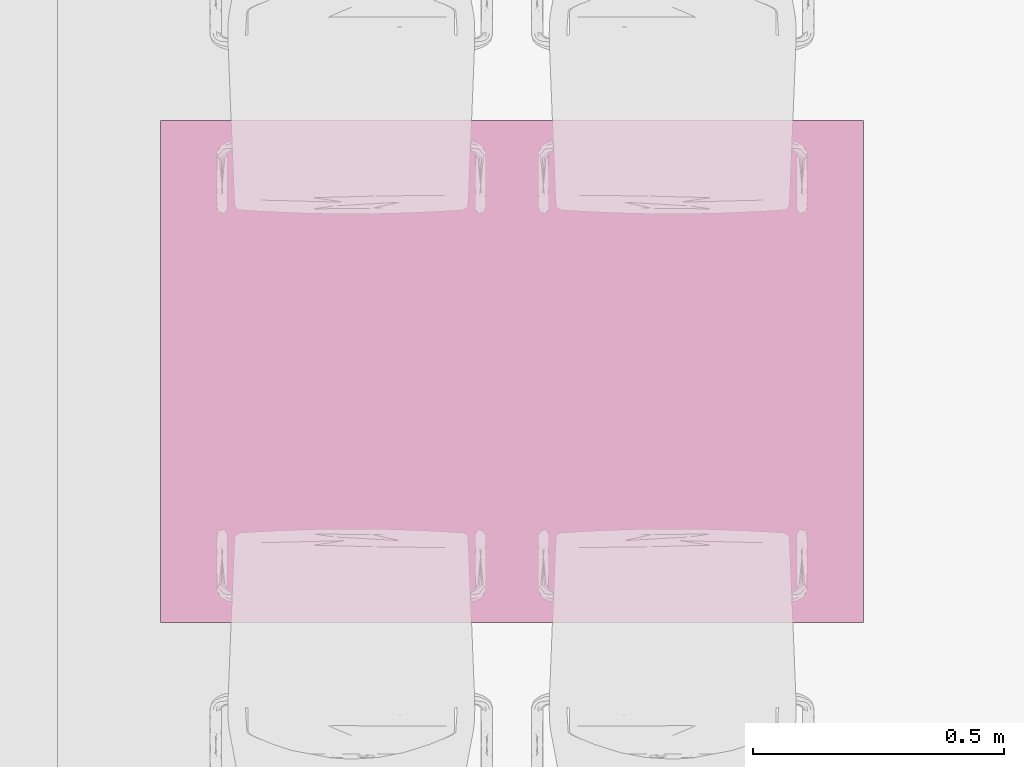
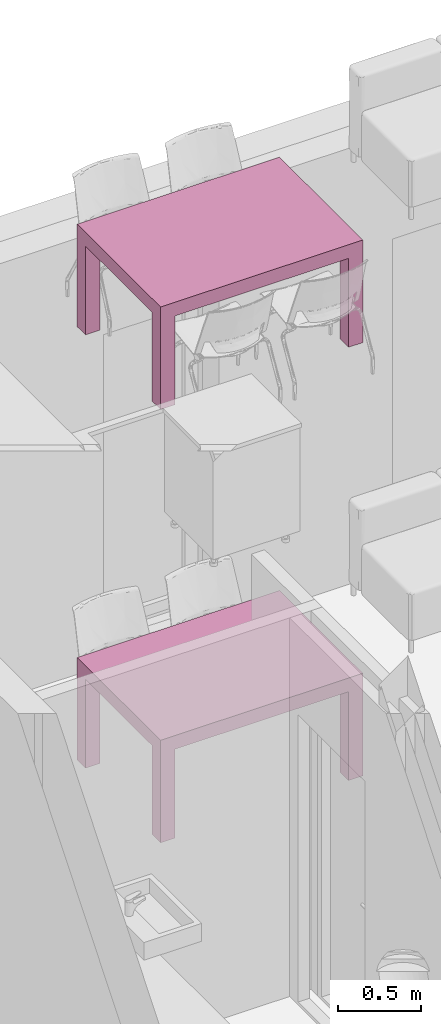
# One storey, part 92 of 125: 2 furnishings.
"""IFC2X3 building model written with IfcOpenShell, lengths in millimetres."""

from ifc_helpers import new_model, entity, si_unit, converted_unit, direction, frame, origin, place, context, subcontext, project, spatial, faceted_brep, source, transform, mapped, material, type_object, type_shapes, element, save


model = new_model("IFC2X3")

# Units and contexts
model_context = context("Model", 3, precision=0.01, world=origin(), true_north=direction((6.123233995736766e-17, 1.0)))
plan_context = context("Plan", 3, precision=0.01, world=origin(), true_north=direction((6.123233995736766e-17, 1.0)))
body_context = subcontext(model_context, "Body", "Model", "MODEL_VIEW")
ifc_project = project(units=[si_unit("LENGTHUNIT", "METRE", prefix="MILLI"), converted_unit("PLANEANGLEUNIT", "DEGREE", entity("IfcPlaneAngleMeasure", 0.017453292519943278), si_unit("PLANEANGLEUNIT", "RADIAN"), dimensions=[0, 0, 0, 0, 0, 0, 0]), si_unit("AREAUNIT", "SQUARE_METRE")], contexts=[model_context, plan_context])

# Site, building, storey, space
site_placement = place(None, origin())
site = spatial("IfcSite", under=ifc_project, at=site_placement, Name="Default", CompositionType="ELEMENT")
building_placement = place(site_placement, origin())
building = spatial("IfcBuilding", under=site, at=building_placement, CompositionType="ELEMENT")
storey_placement = place(building_placement, frame((0.0, 0.0, 3125.0)))
storey = spatial("IfcBuildingStorey", under=building, at=storey_placement, Name="2K", CompositionType="ELEMENT", Elevation=3125.0)
space_placement = place(storey_placement, origin())
space = spatial("IfcSpace", under=storey, at=space_placement, Name="2-3.2", CompositionType="ELEMENT", InteriorOrExteriorSpace="INTERNAL")

# Furnishings
ifc_material = material(Name="<Unnamed>")
furniture_type = type_object("IfcFurnitureType", Name="HR_Furniture_Table_Generic_v2016-02-11:1600x1000", AssemblyPlace="NOTDEFINED", material=ifc_material)
shared_shape = source(origin(), body_context, "Body", "Brep", [
    faceted_brep([(-500.0, -600.0, 0.0), (-400.0, -600.0, 0.0), (-400.0, -700.0, 0.0), (-500.0, -700.0, 0.0), (-400.0, 700.0, 0.0), (-500.0, 700.0, 0.0), (-500.0, 700.0, 750.0), (500.0, 700.0, 750.0), (500.0, 700.0, 0.0), (400.0, 700.0, 0.0), (400.0, 700.0, 650.0), (-400.0, 700.0, 650.0), (-500.0, 600.0, 0.0), (-500.0, 600.0, 650.0), (-500.0, -600.0, 650.0), (-500.0, -700.0, 750.0), (-400.0, 600.0, 0.0), (-400.0, 600.0, 650.0), (400.0, 600.0, 0.0), (400.0, 600.0, 650.0), (500.0, 600.0, 0.0), (500.0, 600.0, 650.0), (500.0, -700.0, 750.0), (500.0, -700.0, 0.0), (500.0, -600.0, 0.0), (500.0, -600.0, 650.0), (400.0, -600.0, 0.0), (400.0, -600.0, 650.0), (400.0, -700.0, 0.0), (400.0, -700.0, 650.0), (-400.0, -700.0, 650.0), (-400.0, -600.0, 650.0)], [[[0, 1, 2, 3]], [[4, 5, 6, 7, 8, 9, 10, 11]], [[6, 5, 12, 13, 14, 0, 3, 15]], [[12, 16, 17, 13]], [[16, 4, 11, 17]], [[9, 18, 19, 10]], [[18, 20, 21, 19]], [[20, 8, 7, 22, 23, 24, 25, 21]], [[24, 26, 27, 25]], [[26, 28, 29, 27]], [[28, 23, 22, 15, 3, 2, 30, 29]], [[2, 1, 31, 30]], [[1, 0, 14, 31]], [[7, 6, 15, 22]], [[11, 10, 19, 21, 25, 27, 29, 30, 31, 14, 13, 17]], [[4, 16, 12, 5]], [[8, 20, 18, 9]], [[24, 23, 28, 26]]]),
])
type_shapes(furniture_type, [shared_shape])
for number, where, z_axis, x_axis in (
    (1, (12680.0, 14100.0, 0.0), (0.0, 0.0, 1.0), (0.0, -1.0, 0.0)),
    (2, (12680.0, 14100.0, 3170.0), (0.0, 0.0, 1.0), (0.0, -1.0, 0.0)),
):
    element("IfcFurnishingElement", number, at=place(space_placement, frame(where, z_axis=z_axis, x_axis=x_axis)), inside=space, type_object=furniture_type, material=ifc_material, Name="HR_Furniture_Table_Generic_v2016-02-11:1600x1000", ObjectType="HR_Furniture_Table_Generic_v2016-02-11:1600x1000", context=body_context, shape_type="MappedRepresentation", body=[
        mapped(shared_shape, transform((0.0, 0.0, 0.0), scale=1.0)),
    ])

save(model, "model.ifc")
